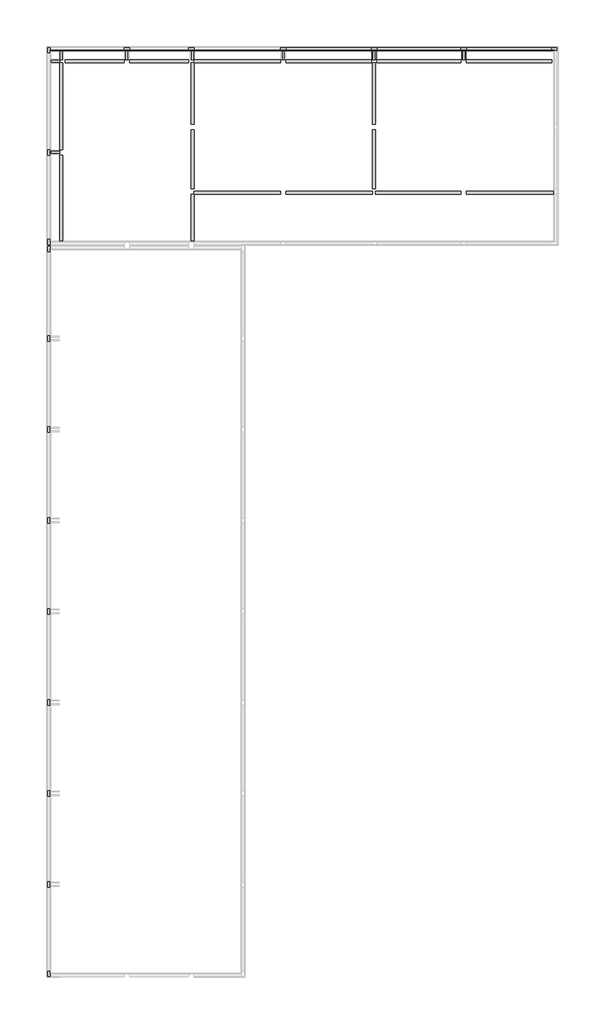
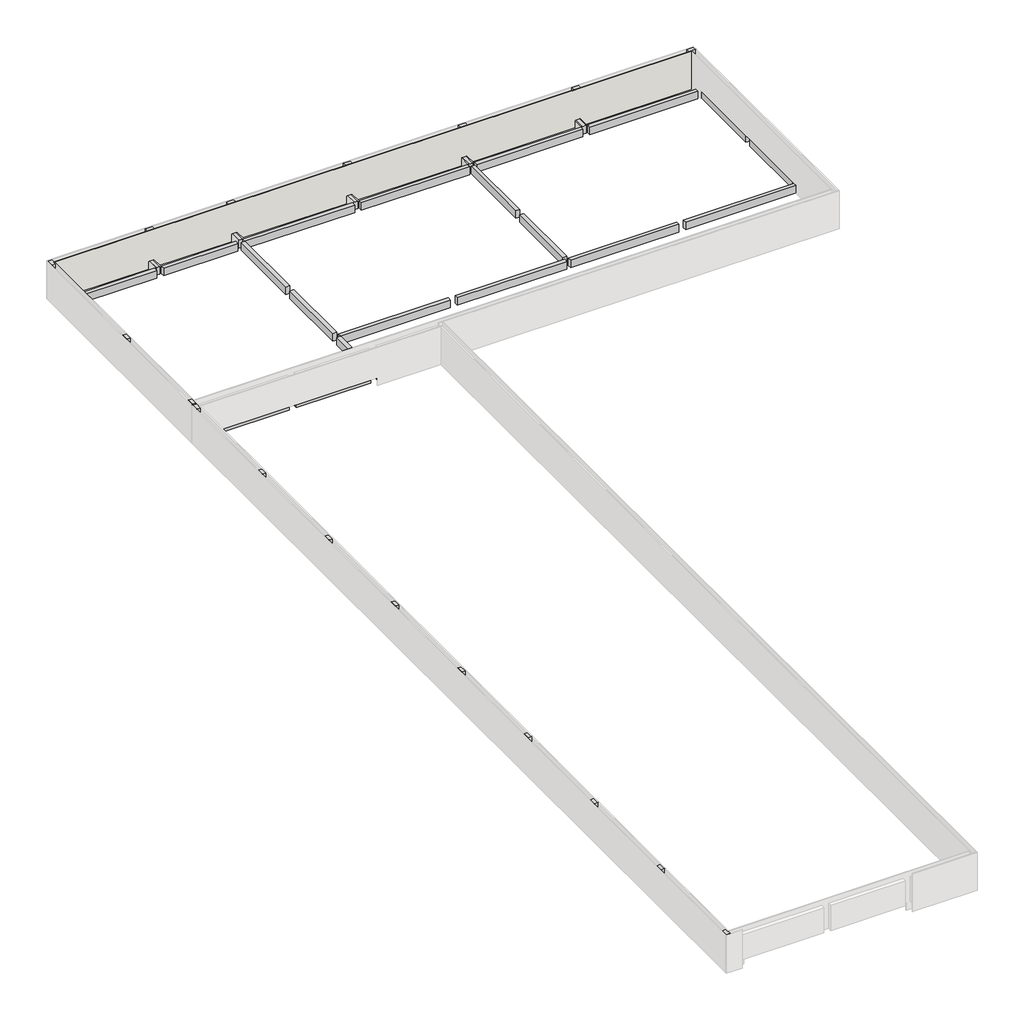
# One storey, part 2 of 2: 39 beams, 18 columns, 8 walls.
"""IFC4 building model written with IfcOpenShell, lengths in millimetres."""

from ifc_helpers import new_model, si_unit, frame, origin, place, context, project, spatial, polyline, outline, extrude, faceted_brep, element, save

model = new_model("IFC4")

# Units and contexts
model_context = context("Model", 3, world=origin())
ifc_project = project(units=[si_unit("LENGTHUNIT", "METRE", prefix="MILLI")], contexts=[model_context])

# Site, building, storey
site = spatial("IfcSite", under=ifc_project)
building = spatial("IfcBuilding", under=site)
storey = spatial("IfcBuildingStorey", under=building, Name="NÍVEL 2", Elevation=3143.4413576)

# Beams
placement = place(None, origin())
element("IfcBeam", 1, ObjectType="Viga Retangular de Concreto : VIGA ESTRUTURAL 14X30-25MPA-CA50", at=placement, inside=storey, context=model_context, shape_type="Brep", body=[
    faceted_brep([(2332.3574069, -26597.9280358, 3143.4413576), (2472.3574069, -26597.9280358, 3143.4413576), (2472.3574069, -26457.9280358, 3143.4413576), (2472.3574069, -26337.9280358, 3143.4413576), (2472.3574069, -22357.9280358, 3143.4413576), (2472.3574069, -22297.9280358, 3143.4413576), (2472.3574069, -22157.9280358, 3143.4413576), (2472.3574069, -22097.9280358, 3143.4413576), (2472.3574069, -18057.9280358, 3143.4413576), (2472.3574069, -17997.9280358, 3143.4413576), (2472.3574069, -17857.9280358, 3143.4413576), (2472.3574069, -17797.9280358, 3143.4413576), (2472.3574069, -13757.9280358, 3143.4413576), (2472.3574069, -13697.9280358, 3143.4413576), (2472.3574069, -13557.9280358, 3143.4413576), (2472.3574069, -13497.9280358, 3143.4413576), (2472.3574069, -9457.9280358, 3143.4413576), (2472.3574069, -9397.9280358, 3143.4413576), (2472.3574069, -9257.9280358, 3143.4413576), (2472.3574069, -9197.9280358, 3143.4413576), (2472.3574069, -5157.9280358, 3143.4413576), (2472.3574069, -5097.9280358, 3143.4413576), (2472.3574069, -4957.9280358, 3143.4413576), (2472.3574069, -4897.9280358, 3143.4413576), (2472.3574069, -857.9280358, 3143.4413576), (2472.3574069, -797.9280358, 3143.4413576), (2472.3574069, -657.9280358, 3143.4413576), (2472.3574069, -597.9280358, 3143.4413576), (2472.3574069, 3442.0719642, 3143.4413576), (2472.3574069, 3502.0719642, 3143.4413576), (2472.3574069, 3642.0719642, 3143.4413576), (2472.3574069, 3702.0719642, 3143.4413576), (2472.3574069, 7682.0719642, 3143.4413576), (2472.3574069, 7802.0719642, 3143.4413576), (2472.3574069, 7942.0719642, 3143.4413576), (2332.3574069, 7942.0719642, 3143.4413576), (2332.3574069, 7682.0719642, 3143.4413576), (2332.3574069, 3702.0719642, 3143.4413576), (2332.3574069, 3442.0719642, 3143.4413576), (2332.3574069, -597.9280358, 3143.4413576), (2332.3574069, -857.9280358, 3143.4413576), (2332.3574069, -4897.9280358, 3143.4413576), (2332.3574069, -5157.9280358, 3143.4413576), (2332.3574069, -9197.9280358, 3143.4413576), (2332.3574069, -9457.9280358, 3143.4413576), (2332.3574069, -13497.9280358, 3143.4413576), (2332.3574069, -13757.9280358, 3143.4413576), (2332.3574069, -17797.9280358, 3143.4413576), (2332.3574069, -18057.9280358, 3143.4413576), (2332.3574069, -22097.9280358, 3143.4413576), (2332.3574069, -22357.9280358, 3143.4413576), (2332.3574069, -26337.9280358, 3143.4413576), (2472.3574069, -26597.9280358, 2843.4413576), (2472.3574069, -26457.9280358, 2843.4413576), (2472.3574069, -22297.9280358, 2843.4413576), (2472.3574069, -22157.9280358, 2843.4413576), (2472.3574069, -17997.9280358, 2843.4413576), (2472.3574069, -17857.9280358, 2843.4413576), (2472.3574069, -13697.9280358, 2843.4413576), (2472.3574069, -13557.9280358, 2843.4413576), (2472.3574069, -9397.9280358, 2843.4413576), (2472.3574069, -9257.9280358, 2843.4413576), (2472.3574069, -5097.9280358, 2843.4413576), (2472.3574069, -4957.9280358, 2843.4413576), (2472.3574069, -797.9280358, 2843.4413576), (2472.3574069, -657.9280358, 2843.4413576), (2472.3574069, 3502.0719642, 2843.4413576), (2472.3574069, 3642.0719642, 2843.4413576), (2472.3574069, 7802.0719642, 2843.4413576), (2472.3574069, 7942.0719642, 2843.4413576), (2332.3574069, -26597.9280358, 2843.4413576), (2332.3574069, 7942.0719642, 2843.4413576)], [[[0, 1, 2, 3, 4, 5, 6, 7, 8, 9, 10, 11, 12, 13, 14, 15, 16, 17, 18, 19, 20, 21, 22, 23, 24, 25, 26, 27, 28, 29, 30, 31, 32, 33, 34, 35, 36, 37, 38, 39, 40, 41, 42, 43, 44, 45, 46, 47, 48, 49, 50, 51]], [[1, 52, 53, 54, 55, 56, 57, 58, 59, 60, 61, 62, 63, 64, 65, 66, 67, 68, 69, 34, 33, 32, 31, 30, 29, 28, 27, 26, 25, 24, 23, 22, 21, 20, 19, 18, 17, 16, 15, 14, 13, 12, 11, 10, 9, 8, 7, 6, 5, 4, 3, 2]], [[52, 70, 71, 69, 68, 67, 66, 65, 64, 63, 62, 61, 60, 59, 58, 57, 56, 55, 54, 53]], [[70, 0, 51, 50, 49, 48, 47, 46, 45, 44, 43, 42, 41, 40, 39, 38, 37, 36, 35, 71]], [[1, 0, 70, 52]], [[35, 34, 69, 71]]]),
])
element("IfcBeam", 2, ObjectType="Viga Retangular de Concreto : VIGA ESTRUTURAL 14X30-25MPA-CA50", at=placement, inside=storey, context=model_context, shape_type="SweptSolid", body=[
    extrude(outline(polyline([(5972.3574069, 8142.0719642), (5972.3574069, 8002.0719642), (3192.3574069, 8002.0719642), (3192.3574069, 8142.0719642), (5972.3574069, 8142.0719642)])), frame((0.0, 0.0, 2843.4413576), z_axis=(0.0, 0.0, 1.0), x_axis=(1.0, 0.0, 0.0)), (0.0, 0.0, 1.0), 300.0),
])
element("IfcBeam", 3, ObjectType="Viga Retangular de Concreto : VIGA ESTRUTURAL 14X30-25MPA-CA50", at=placement, inside=storey, context=model_context, shape_type="SweptSolid", body=[
    extrude(outline(polyline([(9012.3574069, 8142.0719642), (9012.3574069, 8002.0719642), (6232.3574069, 8002.0719642), (6232.3574069, 8142.0719642), (9012.3574069, 8142.0719642)])), frame((0.0, 0.0, 2843.4413576), z_axis=(0.0, 0.0, 1.0), x_axis=(1.0, 0.0, 0.0)), (0.0, 0.0, 1.0), 300.0),
])
element("IfcBeam", 4, ObjectType="Viga Retangular de Concreto : VIGA ESTRUTURAL 14X30-25MPA-CA50", at=placement, inside=storey, context=model_context, shape_type="SweptSolid", body=[
    extrude(outline(polyline([(9272.3574069, 8142.0719642), (9132.3574069, 8142.0719642), (9132.3574069, 10402.0719642), (9272.3574069, 10402.0719642), (9272.3574069, 8142.0719642)])), frame((0.0, 0.0, 2843.4413576), z_axis=(0.0, 0.0, 1.0), x_axis=(1.0, 0.0, 0.0)), (0.0, 0.0, 1.0), 300.0),
])
element("IfcBeam", 5, ObjectType="Viga Retangular de Concreto : VIGA ESTRUTURAL 14X30-25MPA-CA50", at=placement, inside=storey, context=model_context, shape_type="SweptSolid", body=[
    extrude(outline(polyline([(9132.3574069, 13442.0719642), (9272.3574069, 13442.0719642), (9272.3574069, 10662.0719642), (9132.3574069, 10662.0719642), (9132.3574069, 13442.0719642)])), frame((0.0, 0.0, 2843.4413576), z_axis=(0.0, 0.0, 1.0), x_axis=(1.0, 0.0, 0.0)), (0.0, 0.0, 1.0), 300.0),
])
element("IfcBeam", 6, ObjectType="Viga Retangular de Concreto : VIGA ESTRUTURAL 14X30-25MPA-CA50", at=placement, inside=storey, context=model_context, shape_type="SweptSolid", body=[
    extrude(outline(polyline([(9132.3574069, 16602.0719642), (9272.3574069, 16602.0719642), (9272.3574069, 13702.0719642), (9132.3574069, 13702.0719642), (9132.3574069, 16602.0719642)])), frame((0.0, 0.0, 2843.4413576), z_axis=(0.0, 0.0, 1.0), x_axis=(1.0, 0.0, 0.0)), (0.0, 0.0, 1.0), 300.0),
])
element("IfcBeam", 7, ObjectType="Viga Retangular de Concreto : VIGA ESTRUTURAL 14X30-25MPA-CA50", at=placement, inside=storey, context=model_context, shape_type="SweptSolid", body=[
    extrude(outline(polyline([(3072.3574069, 8142.0719642), (2932.3574069, 8142.0719642), (2932.3574069, 12242.0719642), (3072.3574069, 12242.0719642), (3072.3574069, 8142.0719642)])), frame((0.0, 0.0, 2843.4413576), z_axis=(0.0, 0.0, 1.0), x_axis=(1.0, 0.0, 0.0)), (0.0, 0.0, 1.0), 300.0),
])
element("IfcBeam", 8, ObjectType="Viga Retangular de Concreto : VIGA ESTRUTURAL 14X30-25MPA-CA50", at=placement, inside=storey, context=model_context, shape_type="SweptSolid", body=[
    extrude(outline(polyline([(2932.3574069, 16602.0719642), (3072.3574069, 16602.0719642), (3072.3574069, 12502.0719642), (2932.3574069, 12502.0719642), (2932.3574069, 16602.0719642)])), frame((0.0, 0.0, 2843.4413576), z_axis=(0.0, 0.0, 1.0), x_axis=(1.0, 0.0, 0.0)), (0.0, 0.0, 1.0), 300.0),
])
element("IfcBeam", 9, ObjectType="Viga Retangular de Concreto : VIGA ESTRUTURAL 14X30-25MPA-CA50", at=placement, inside=storey, context=model_context, shape_type="SweptSolid", body=[
    extrude(outline(polyline([(5972.3574069, 16742.0719642), (5972.3574069, 16602.0719642), (3192.3574069, 16602.0719642), (3192.3574069, 16742.0719642), (5972.3574069, 16742.0719642)])), frame((0.0, 0.0, 2843.4413576), z_axis=(0.0, 0.0, 1.0), x_axis=(1.0, 0.0, 0.0)), (0.0, 0.0, 1.0), 300.0),
])
element("IfcBeam", 10, ObjectType="Viga Retangular de Concreto : VIGA ESTRUTURAL 14X30-25MPA-CA50", at=placement, inside=storey, context=model_context, shape_type="SweptSolid", body=[
    extrude(outline(polyline([(9012.3574069, 16742.0719642), (9012.3574069, 16602.0719642), (6232.3574069, 16602.0719642), (6232.3574069, 16742.0719642), (9012.3574069, 16742.0719642)])), frame((0.0, 0.0, 2843.4413576), z_axis=(0.0, 0.0, 1.0), x_axis=(1.0, 0.0, 0.0)), (0.0, 0.0, 1.0), 300.0),
])
element("IfcBeam", 11, ObjectType="Viga Retangular de Concreto : VIGA ESTRUTURAL 14X30-25MPA-CA50", at=placement, inside=storey, context=model_context, shape_type="SweptSolid", body=[
    extrude(outline(polyline([(13372.3574069, 16742.0719642), (13372.3574069, 16602.0719642), (9272.3574069, 16602.0719642), (9272.3574069, 16742.0719642), (13372.3574069, 16742.0719642)])), frame((0.0, 0.0, 2843.4413576), z_axis=(0.0, 0.0, 1.0), x_axis=(1.0, 0.0, 0.0)), (0.0, 0.0, 1.0), 300.0),
])
element("IfcBeam", 12, ObjectType="Viga Retangular de Concreto : VIGA ESTRUTURAL 14X30-25MPA-CA50", at=placement, inside=storey, context=model_context, shape_type="SweptSolid", body=[
    extrude(outline(polyline([(17672.3574069, 16742.0719642), (17672.3574069, 16602.0719642), (13632.3574069, 16602.0719642), (13632.3574069, 16742.0719642), (17672.3574069, 16742.0719642)])), frame((0.0, 0.0, 2843.4413576), z_axis=(0.0, 0.0, 1.0), x_axis=(1.0, 0.0, 0.0)), (0.0, 0.0, 1.0), 300.0),
])
element("IfcBeam", 13, ObjectType="Viga Retangular de Concreto : VIGA ESTRUTURAL 14X30-25MPA-CA50", at=placement, inside=storey, context=model_context, shape_type="SweptSolid", body=[
    extrude(outline(polyline([(21912.3574069, 16742.0719642), (21912.3574069, 16602.0719642), (17932.3574069, 16602.0719642), (17932.3574069, 16742.0719642), (21912.3574069, 16742.0719642)])), frame((0.0, 0.0, 2843.4413576), z_axis=(0.0, 0.0, 1.0), x_axis=(1.0, 0.0, 0.0)), (0.0, 0.0, 1.0), 300.0),
])
element("IfcBeam", 14, ObjectType="Viga Retangular de Concreto : VIGA ESTRUTURAL 14X30-25MPA-CA50", at=placement, inside=storey, context=model_context, shape_type="SweptSolid", body=[
    extrude(outline(polyline([(26212.3574069, 16742.0719642), (26212.3574069, 16602.0719642), (22172.3574069, 16602.0719642), (22172.3574069, 16742.0719642), (26212.3574069, 16742.0719642)])), frame((0.0, 0.0, 2843.4413576), z_axis=(0.0, 0.0, 1.0), x_axis=(1.0, 0.0, 0.0)), (0.0, 0.0, 1.0), 300.0),
])
element("IfcBeam", 15, ObjectType="Viga Retangular de Concreto : VIGA ESTRUTURAL 14X30-25MPA-CA50", at=placement, inside=storey, context=model_context, shape_type="SweptSolid", body=[
    extrude(outline(polyline([(13372.3574069, 8142.0719642), (13372.3574069, 8002.0719642), (9272.3574069, 8002.0719642), (9272.3574069, 8142.0719642), (13372.3574069, 8142.0719642)])), frame((0.0, 0.0, 2843.4413576), z_axis=(0.0, 0.0, 1.0), x_axis=(1.0, 0.0, 0.0)), (0.0, 0.0, 1.0), 300.0),
])
element("IfcBeam", 16, ObjectType="Viga Retangular de Concreto : VIGA ESTRUTURAL 14X30-25MPA-CA50", at=placement, inside=storey, context=model_context, shape_type="Brep", body=[
    faceted_brep([(2332.3574069, 8002.0719642, 3143.4413576), (2472.3574069, 8002.0719642, 3143.4413576), (2472.3574069, 8142.0719642, 3143.4413576), (2472.3574069, 8262.0719642, 3143.4413576), (2472.3574069, 12242.0719642, 3143.4413576), (2472.3574069, 12302.0719642, 3143.4413576), (2472.3574069, 12442.0719642, 3143.4413576), (2472.3574069, 12502.0719642, 3143.4413576), (2472.3574069, 16602.0719642, 3143.4413576), (2472.3574069, 16742.0719642, 3143.4413576), (2472.3574069, 17082.0719642, 3143.4413576), (2472.3574069, 17202.0719642, 3143.4413576), (2472.3574069, 17342.0719642, 3143.4413576), (2332.3574069, 17342.0719642, 3143.4413576), (2332.3574069, 17082.0719642, 3143.4413576), (2332.3574069, 12502.0719642, 3143.4413576), (2332.3574069, 12242.0719642, 3143.4413576), (2332.3574069, 8262.0719642, 3143.4413576), (2332.3574069, 8002.0719642, 2843.4413576), (2332.3574069, 17342.0719642, 2843.4413576), (2472.3574069, 8002.0719642, 2843.4413576), (2472.3574069, 17342.0719642, 2843.4413576), (2472.3574069, 17202.0719642, 2843.4413576), (2472.3574069, 16742.0719642, 2843.4413576), (2472.3574069, 16602.0719642, 2843.4413576), (2472.3574069, 12442.0719642, 2843.4413576), (2472.3574069, 12302.0719642, 2843.4413576), (2472.3574069, 8142.0719642, 2843.4413576)], [[[0, 1, 2, 3, 4, 5, 6, 7, 8, 9, 10, 11, 12, 13, 14, 15, 16, 17]], [[18, 0, 17, 16, 15, 14, 13, 19]], [[20, 18, 19, 21, 22, 23, 24, 25, 26, 27]], [[1, 20, 27, 26, 25, 24, 23, 22, 21, 12, 11, 10, 9, 8, 7, 6, 5, 4, 3, 2]], [[1, 0, 18, 20]], [[13, 12, 21, 19]]]),
])
element("IfcBeam", 17, ObjectType="Viga Retangular de Concreto : VIGA ESTRUTURAL 14X30-25MPA-CA50", at=placement, inside=storey, context=model_context, shape_type="SweptSolid", body=[
    extrude(outline(polyline([(2932.3574069, 8142.0719642), (2932.3574069, 8002.0719642), (2472.3574069, 8002.0719642), (2472.3574069, 8142.0719642), (2932.3574069, 8142.0719642)])), frame((0.0, 0.0, 2843.4413576), z_axis=(0.0, 0.0, 1.0), x_axis=(1.0, 0.0, 0.0)), (0.0, 0.0, 1.0), 300.0),
])
element("IfcBeam", 18, ObjectType="Viga Retangular de Concreto : VIGA ESTRUTURAL 14X30-25MPA-CA50", at=placement, inside=storey, context=model_context, shape_type="SweptSolid", body=[
    extrude(outline(polyline([(2932.3574069, 12442.0719642), (2932.3574069, 12302.0719642), (2472.3574069, 12302.0719642), (2472.3574069, 12442.0719642), (2932.3574069, 12442.0719642)])), frame((0.0, 0.0, 2843.4413576), z_axis=(0.0, 0.0, 1.0), x_axis=(1.0, 0.0, 0.0)), (0.0, 0.0, 1.0), 300.0),
])
element("IfcBeam", 19, ObjectType="Viga Retangular de Concreto : VIGA ESTRUTURAL 14X30-25MPA-CA50", at=placement, inside=storey, context=model_context, shape_type="SweptSolid", body=[
    extrude(outline(polyline([(2932.3574069, 16742.0719642), (2932.3574069, 16602.0719642), (2472.3574069, 16602.0719642), (2472.3574069, 16742.0719642), (2932.3574069, 16742.0719642)])), frame((0.0, 0.0, 2843.4413576), z_axis=(0.0, 0.0, 1.0), x_axis=(1.0, 0.0, 0.0)), (0.0, 0.0, 1.0), 300.0),
])
element("IfcBeam", 20, ObjectType="Viga Retangular de Concreto : VIGA ESTRUTURAL 14X30-25MPA-CA50", at=placement, inside=storey, context=model_context, shape_type="Brep", body=[
    faceted_brep([(26212.3574069, 17202.0719642, 3143.4413576), (26212.3574069, 17202.0719642, 2843.4413576), (26212.3574069, 17342.0719642, 2843.4413576), (26212.3574069, 17342.0719642, 3143.4413576), (22172.3574069, 17342.0719642, 3143.4413576), (21912.3574069, 17342.0719642, 3143.4413576), (17932.3574069, 17342.0719642, 3143.4413576), (17672.3574069, 17342.0719642, 3143.4413576), (13632.3574069, 17342.0719642, 3143.4413576), (13372.3574069, 17342.0719642, 3143.4413576), (9272.3574069, 17342.0719642, 3143.4413576), (9012.3574069, 17342.0719642, 3143.4413576), (6232.3574069, 17342.0719642, 3143.4413576), (5972.3574069, 17342.0719642, 3143.4413576), (2472.3574069, 17342.0719642, 3143.4413576), (2472.3574069, 17202.0719642, 3143.4413576), (2932.3574069, 17202.0719642, 3143.4413576), (3072.3574069, 17202.0719642, 3143.4413576), (5972.3574069, 17202.0719642, 3143.4413576), (6032.3574069, 17202.0719642, 3143.4413576), (6172.3574069, 17202.0719642, 3143.4413576), (6232.3574069, 17202.0719642, 3143.4413576), (9012.3574069, 17202.0719642, 3143.4413576), (9132.3574069, 17202.0719642, 3143.4413576), (9272.3574069, 17202.0719642, 3143.4413576), (13372.3574069, 17202.0719642, 3143.4413576), (13432.3574069, 17202.0719642, 3143.4413576), (13572.3574069, 17202.0719642, 3143.4413576), (13632.3574069, 17202.0719642, 3143.4413576), (17672.3574069, 17202.0719642, 3143.4413576), (17732.3574069, 17202.0719642, 3143.4413576), (17872.3574069, 17202.0719642, 3143.4413576), (17932.3574069, 17202.0719642, 3143.4413576), (21912.3574069, 17202.0719642, 3143.4413576), (21972.3574069, 17202.0719642, 3143.4413576), (22112.3574069, 17202.0719642, 3143.4413576), (22172.3574069, 17202.0719642, 3143.4413576), (2472.3574069, 17342.0719642, 2843.4413576), (22112.3574069, 17202.0719642, 2843.4413576), (21972.3574069, 17202.0719642, 2843.4413576), (17872.3574069, 17202.0719642, 2843.4413576), (17732.3574069, 17202.0719642, 2843.4413576), (13572.3574069, 17202.0719642, 2843.4413576), (13432.3574069, 17202.0719642, 2843.4413576), (9272.3574069, 17202.0719642, 2843.4413576), (9132.3574069, 17202.0719642, 2843.4413576), (6172.3574069, 17202.0719642, 2843.4413576), (6032.3574069, 17202.0719642, 2843.4413576), (3072.3574069, 17202.0719642, 2843.4413576), (2932.3574069, 17202.0719642, 2843.4413576), (2472.3574069, 17202.0719642, 2843.4413576)], [[[0, 1, 2, 3]], [[0, 3, 4, 5, 6, 7, 8, 9, 10, 11, 12, 13, 14, 15, 16, 17, 18, 19, 20, 21, 22, 23, 24, 25, 26, 27, 28, 29, 30, 31, 32, 33, 34, 35, 36]], [[3, 2, 37, 14, 13, 12, 11, 10, 9, 8, 7, 6, 5, 4]], [[2, 1, 38, 39, 40, 41, 42, 43, 44, 45, 46, 47, 48, 49, 50, 37]], [[1, 0, 36, 35, 34, 33, 32, 31, 30, 29, 28, 27, 26, 25, 24, 23, 22, 21, 20, 19, 18, 17, 16, 15, 50, 49, 48, 47, 46, 45, 44, 43, 42, 41, 40, 39, 38]], [[15, 14, 37, 50]]]),
])
element("IfcBeam", 21, ObjectType="Viga Retangular de Concreto : VIGA ESTRUTURAL 14X30-25MPA-CA50", at=placement, inside=storey, context=model_context, shape_type="SweptSolid", body=[
    extrude(outline(polyline([(3072.3574069, 16742.0719642), (2932.3574069, 16742.0719642), (2932.3574069, 17202.0719642), (3072.3574069, 17202.0719642), (3072.3574069, 16742.0719642)])), frame((0.0, 0.0, 2843.4413576), z_axis=(0.0, 0.0, 1.0), x_axis=(1.0, 0.0, 0.0)), (0.0, 0.0, 1.0), 300.0),
])
element("IfcBeam", 22, ObjectType="Viga Retangular de Concreto : VIGA ESTRUTURAL 14X30-25MPA-CA50", at=placement, inside=storey, context=model_context, shape_type="SweptSolid", body=[
    extrude(outline(polyline([(6172.3574069, 16742.0719642), (6032.3574069, 16742.0719642), (6032.3574069, 17202.0719642), (6172.3574069, 17202.0719642), (6172.3574069, 16742.0719642)])), frame((0.0, 0.0, 2843.4413576), z_axis=(0.0, 0.0, 1.0), x_axis=(1.0, 0.0, 0.0)), (0.0, 0.0, 1.0), 300.0),
])
element("IfcBeam", 23, ObjectType="Viga Retangular de Concreto : VIGA ESTRUTURAL 14X30-25MPA-CA50", at=placement, inside=storey, context=model_context, shape_type="SweptSolid", body=[
    extrude(outline(polyline([(9272.3574069, 16742.0719642), (9132.3574069, 16742.0719642), (9132.3574069, 17202.0719642), (9272.3574069, 17202.0719642), (9272.3574069, 16742.0719642)])), frame((0.0, 0.0, 2843.4413576), z_axis=(0.0, 0.0, 1.0), x_axis=(1.0, 0.0, 0.0)), (0.0, 0.0, 1.0), 300.0),
])
element("IfcBeam", 24, ObjectType="Viga Retangular de Concreto : VIGA ESTRUTURAL 14X30-25MPA-CA50", at=placement, inside=storey, context=model_context, shape_type="SweptSolid", body=[
    extrude(outline(polyline([(13572.3574069, 16742.0719642), (13432.3574069, 16742.0719642), (13432.3574069, 17202.0719642), (13572.3574069, 17202.0719642), (13572.3574069, 16742.0719642)])), frame((0.0, 0.0, 2843.4413576), z_axis=(0.0, 0.0, 1.0), x_axis=(1.0, 0.0, 0.0)), (0.0, 0.0, 1.0), 300.0),
])
element("IfcBeam", 25, ObjectType="Viga Retangular de Concreto : VIGA ESTRUTURAL 14X30-25MPA-CA50", at=placement, inside=storey, context=model_context, shape_type="SweptSolid", body=[
    extrude(outline(polyline([(17872.3574069, 16742.0719642), (17732.3574069, 16742.0719642), (17732.3574069, 17202.0719642), (17872.3574069, 17202.0719642), (17872.3574069, 16742.0719642)])), frame((0.0, 0.0, 2843.4413576), z_axis=(0.0, 0.0, 1.0), x_axis=(1.0, 0.0, 0.0)), (0.0, 0.0, 1.0), 300.0),
])
element("IfcBeam", 26, ObjectType="Viga Retangular de Concreto : VIGA ESTRUTURAL 14X30-25MPA-CA50", at=placement, inside=storey, context=model_context, shape_type="SweptSolid", body=[
    extrude(outline(polyline([(22112.3574069, 16742.0719642), (21972.3574069, 16742.0719642), (21972.3574069, 17202.0719642), (22112.3574069, 17202.0719642), (22112.3574069, 16742.0719642)])), frame((0.0, 0.0, 2843.4413576), z_axis=(0.0, 0.0, 1.0), x_axis=(1.0, 0.0, 0.0)), (0.0, 0.0, 1.0), 300.0),
])
element("IfcBeam", 27, ObjectType="Viga Retangular de Concreto : VIGA ESTRUTURAL 14X30-25MPA-CA50", at=placement, inside=storey, context=model_context, shape_type="Brep", body=[
    faceted_brep([(26332.3574069, 17272.0719642, 3143.4413576), (26472.3574069, 17272.0719642, 3143.4413576), (26472.3574069, 17272.0719642, 2843.4413576), (26332.3574069, 17272.0719642, 2843.4413576), (26332.3574069, 16742.0719642, 3143.4413576), (26472.3574069, 16742.0719642, 3143.4413576), (26472.3574069, 17202.0719642, 3143.4413576), (26472.3574069, 16742.0719642, 2843.4413576), (26332.3574069, 16742.0719642, 2843.4413576)], [[[0, 1, 2, 3]], [[1, 0, 4, 5, 6]], [[2, 1, 6, 5, 7]], [[3, 2, 7, 8]], [[0, 3, 8, 4]], [[4, 8, 7, 5]]]),
])
element("IfcBeam", 28, ObjectType="Viga Retangular de Concreto : VIGA ESTRUTURAL 14X30-25MPA-CA50", at=placement, inside=storey, context=model_context, shape_type="SweptSolid", body=[
    extrude(outline(polyline([(17672.3574069, 8142.0719642), (17672.3574069, 8002.0719642), (13632.3574069, 8002.0719642), (13632.3574069, 8142.0719642), (17672.3574069, 8142.0719642)])), frame((0.0, 0.0, 2843.4413576), z_axis=(0.0, 0.0, 1.0), x_axis=(1.0, 0.0, 0.0)), (0.0, 0.0, 1.0), 300.0),
])
element("IfcBeam", 29, ObjectType="Viga Retangular de Concreto : VIGA ESTRUTURAL 14X30-25MPA-CA50", at=placement, inside=storey, context=model_context, shape_type="SweptSolid", body=[
    extrude(outline(polyline([(9272.3574069, 10402.0719642), (9272.3574069, 10542.0719642), (13372.3574069, 10542.0719642), (13372.3574069, 10402.0719642), (9272.3574069, 10402.0719642)])), frame((0.0, 0.0, 2843.4413576), z_axis=(0.0, 0.0, 1.0), x_axis=(1.0, 0.0, 0.0)), (0.0, 0.0, 1.0), 300.0),
])
element("IfcBeam", 30, ObjectType="Viga Retangular de Concreto : VIGA ESTRUTURAL 14X30-25MPA-CA50", at=placement, inside=storey, context=model_context, shape_type="SweptSolid", body=[
    extrude(outline(polyline([(17732.3574069, 10542.0719642), (17732.3574069, 10402.0719642), (13632.3574069, 10402.0719642), (13632.3574069, 10542.0719642), (17732.3574069, 10542.0719642)])), frame((0.0, 0.0, 2843.4413576), z_axis=(0.0, 0.0, 1.0), x_axis=(1.0, 0.0, 0.0)), (0.0, 0.0, 1.0), 300.0),
])
element("IfcBeam", 31, ObjectType="Viga Retangular de Concreto : VIGA ESTRUTURAL 14X30-25MPA-CA50", at=placement, inside=storey, context=model_context, shape_type="SweptSolid", body=[
    extrude(outline(polyline([(21912.3574069, 10542.0719642), (21912.3574069, 10402.0719642), (17872.3574069, 10402.0719642), (17872.3574069, 10542.0719642), (21912.3574069, 10542.0719642)])), frame((0.0, 0.0, 2843.4413576), z_axis=(0.0, 0.0, 1.0), x_axis=(1.0, 0.0, 0.0)), (0.0, 0.0, 1.0), 300.0),
])
element("IfcBeam", 32, ObjectType="Viga Retangular de Concreto : VIGA ESTRUTURAL 14X30-25MPA-CA50", at=placement, inside=storey, context=model_context, shape_type="SweptSolid", body=[
    extrude(outline(polyline([(26332.3574069, 10542.0719642), (26332.3574069, 10402.0719642), (22172.3574069, 10402.0719642), (22172.3574069, 10542.0719642), (26332.3574069, 10542.0719642)])), frame((0.0, 0.0, 2843.4413576), z_axis=(0.0, 0.0, 1.0), x_axis=(1.0, 0.0, 0.0)), (0.0, 0.0, 1.0), 300.0),
])
element("IfcBeam", 33, ObjectType="Viga Retangular de Concreto : VIGA ESTRUTURAL 14X30-25MPA-CA50", at=placement, inside=storey, context=model_context, shape_type="SweptSolid", body=[
    extrude(outline(polyline([(26332.3574069, 16602.0719642), (26472.3574069, 16602.0719642), (26472.3574069, 13702.0719642), (26332.3574069, 13702.0719642), (26332.3574069, 16602.0719642)])), frame((0.0, 0.0, 2843.4413576), z_axis=(0.0, 0.0, 1.0), x_axis=(1.0, 0.0, 0.0)), (0.0, 0.0, 1.0), 300.0),
])
element("IfcBeam", 34, ObjectType="Viga Retangular de Concreto : VIGA ESTRUTURAL 14X30-25MPA-CA50", at=placement, inside=storey, context=model_context, shape_type="SweptSolid", body=[
    extrude(outline(polyline([(26472.3574069, 10662.0719642), (26332.3574069, 10662.0719642), (26332.3574069, 13442.0719642), (26472.3574069, 13442.0719642), (26472.3574069, 10662.0719642)])), frame((0.0, 0.0, 2843.4413576), z_axis=(0.0, 0.0, 1.0), x_axis=(1.0, 0.0, 0.0)), (0.0, 0.0, 1.0), 300.0),
])
element("IfcBeam", 35, ObjectType="Viga Retangular de Concreto : VIGA ESTRUTURAL 14X30-25MPA-CA50", at=placement, inside=storey, context=model_context, shape_type="SweptSolid", body=[
    extrude(outline(polyline([(17732.3574069, 13442.0719642), (17872.3574069, 13442.0719642), (17872.3574069, 10662.0719642), (17732.3574069, 10662.0719642), (17732.3574069, 13442.0719642)])), frame((0.0, 0.0, 2843.4413576), z_axis=(0.0, 0.0, 1.0), x_axis=(1.0, 0.0, 0.0)), (0.0, 0.0, 1.0), 300.0),
])
element("IfcBeam", 36, ObjectType="Viga Retangular de Concreto : VIGA ESTRUTURAL 14X30-25MPA-CA50", at=placement, inside=storey, context=model_context, shape_type="SweptSolid", body=[
    extrude(outline(polyline([(17872.3574069, 13702.0719642), (17732.3574069, 13702.0719642), (17732.3574069, 16602.0719642), (17872.3574069, 16602.0719642), (17872.3574069, 13702.0719642)])), frame((0.0, 0.0, 2843.4413576), z_axis=(0.0, 0.0, 1.0), x_axis=(1.0, 0.0, 0.0)), (0.0, 0.0, 1.0), 300.0),
])
element("IfcBeam", 37, ObjectType="Viga Retangular de Concreto : VIGA ESTRUTURAL 14X30-25MPA-CA50", at=placement, inside=storey, context=model_context, shape_type="SweptSolid", body=[
    extrude(outline(polyline([(26332.3574069, 10402.0719642), (26472.3574069, 10402.0719642), (26472.3574069, 8142.0719642), (26332.3574069, 8142.0719642), (26332.3574069, 10402.0719642)])), frame((0.0, 0.0, 2843.4413576), z_axis=(0.0, 0.0, 1.0), x_axis=(1.0, 0.0, 0.0)), (0.0, 0.0, 1.0), 300.0),
])
element("IfcBeam", 38, ObjectType="Viga Retangular de Concreto : VIGA ESTRUTURAL 14X30-25MPA-CA50", at=placement, inside=storey, context=model_context, shape_type="SweptSolid", body=[
    extrude(outline(polyline([(21912.3574069, 8142.0719642), (21912.3574069, 8002.0719642), (17932.3574069, 8002.0719642), (17932.3574069, 8142.0719642), (21912.3574069, 8142.0719642)])), frame((0.0, 0.0, 2843.4413576), z_axis=(0.0, 0.0, 1.0), x_axis=(1.0, 0.0, 0.0)), (0.0, 0.0, 1.0), 300.0),
])
element("IfcBeam", 39, ObjectType="Viga Retangular de Concreto : VIGA ESTRUTURAL 14X30-25MPA-CA50", at=placement, inside=storey, context=model_context, shape_type="SweptSolid", body=[
    extrude(outline(polyline([(26212.3574069, 8142.0719642), (26212.3574069, 8002.0719642), (22172.3574069, 8002.0719642), (22172.3574069, 8142.0719642), (26212.3574069, 8142.0719642)])), frame((0.0, 0.0, 2843.4413576), z_axis=(0.0, 0.0, 1.0), x_axis=(1.0, 0.0, 0.0)), (0.0, 0.0, 1.0), 300.0),
])

# Columns
element("IfcColumn", 40, ObjectType="Pilar Retangular de Concreto : PILAR ESTRUTURAL 14X26-25MPA-CA50", at=placement, inside=storey, context=model_context, shape_type="SweptSolid", body=[
    extrude(outline(polyline([(2332.3574069, 3702.0719642), (2472.3574069, 3702.0719642), (2472.3574069, 3442.0719642), (2332.3574069, 3442.0719642), (2332.3574069, 3702.0719642)])), frame((0.0, 0.0, 3143.4413576), z_axis=(0.0, 0.0, 1.0), x_axis=(1.0, 0.0, 0.0)), (0.0, 0.0, 1.0), 1200.0),
])
element("IfcColumn", 41, ObjectType="Pilar Retangular de Concreto : PILAR ESTRUTURAL 14X26-25MPA-CA50", at=placement, inside=storey, context=model_context, shape_type="SweptSolid", body=[
    extrude(outline(polyline([(2332.3574069, -4897.9280358), (2472.3574069, -4897.9280358), (2472.3574069, -5157.9280358), (2332.3574069, -5157.9280358), (2332.3574069, -4897.9280358)])), frame((0.0, 0.0, 3143.4413576), z_axis=(0.0, 0.0, 1.0), x_axis=(1.0, 0.0, 0.0)), (0.0, 0.0, 1.0), 1200.0),
])
element("IfcColumn", 42, ObjectType="Pilar Retangular de Concreto : PILAR ESTRUTURAL 14X26-25MPA-CA50", at=placement, inside=storey, context=model_context, shape_type="SweptSolid", body=[
    extrude(outline(polyline([(2332.3574069, -13497.9280358), (2472.3574069, -13497.9280358), (2472.3574069, -13757.9280358), (2332.3574069, -13757.9280358), (2332.3574069, -13497.9280358)])), frame((0.0, 0.0, 3143.4413576), z_axis=(0.0, 0.0, 1.0), x_axis=(1.0, 0.0, 0.0)), (0.0, 0.0, 1.0), 1200.0),
])
element("IfcColumn", 43, ObjectType="Pilar Retangular de Concreto : PILAR ESTRUTURAL 14X26-25MPA-CA50", at=placement, inside=storey, context=model_context, shape_type="SweptSolid", body=[
    extrude(outline(polyline([(2332.3574069, -22097.9280358), (2472.3574069, -22097.9280358), (2472.3574069, -22357.9280358), (2332.3574069, -22357.9280358), (2332.3574069, -22097.9280358)])), frame((0.0, 0.0, 3143.4413576), z_axis=(0.0, 0.0, 1.0), x_axis=(1.0, 0.0, 0.0)), (0.0, 0.0, 1.0), 1200.0),
])
element("IfcColumn", 44, ObjectType="Pilar Retangular de Concreto : PILAR ESTRUTURAL 14X26-25MPA-CA50", at=placement, inside=storey, context=model_context, shape_type="SweptSolid", body=[
    extrude(outline(polyline([(2332.3574069, -17797.9280358), (2472.3574069, -17797.9280358), (2472.3574069, -18057.9280358), (2332.3574069, -18057.9280358), (2332.3574069, -17797.9280358)])), frame((0.0, 0.0, 3143.4413576), z_axis=(0.0, 0.0, 1.0), x_axis=(1.0, 0.0, 0.0)), (0.0, 0.0, 1.0), 1200.0),
])
element("IfcColumn", 45, ObjectType="Pilar Retangular de Concreto : PILAR ESTRUTURAL 14X26-25MPA-CA50", at=placement, inside=storey, context=model_context, shape_type="SweptSolid", body=[
    extrude(outline(polyline([(2332.3574069, -9197.9280358), (2472.3574069, -9197.9280358), (2472.3574069, -9457.9280358), (2332.3574069, -9457.9280358), (2332.3574069, -9197.9280358)])), frame((0.0, 0.0, 3143.4413576), z_axis=(0.0, 0.0, 1.0), x_axis=(1.0, 0.0, 0.0)), (0.0, 0.0, 1.0), 1200.0),
])
element("IfcColumn", 46, ObjectType="Pilar Retangular de Concreto : PILAR ESTRUTURAL 14X26-25MPA-CA50", at=placement, inside=storey, context=model_context, shape_type="SweptSolid", body=[
    extrude(outline(polyline([(2332.3574069, -597.9280358), (2472.3574069, -597.9280358), (2472.3574069, -857.9280358), (2332.3574069, -857.9280358), (2332.3574069, -597.9280358)])), frame((0.0, 0.0, 3143.4413576), z_axis=(0.0, 0.0, 1.0), x_axis=(1.0, 0.0, 0.0)), (0.0, 0.0, 1.0), 1200.0),
])
element("IfcColumn", 47, ObjectType="Pilar Retangular de Concreto : PILAR ESTRUTURAL 14X26-25MPA-CA50", at=placement, inside=storey, context=model_context, shape_type="SweptSolid", body=[
    extrude(outline(polyline([(2332.3574069, 7942.0719642), (2472.3574069, 7942.0719642), (2472.3574069, 7682.0719642), (2332.3574069, 7682.0719642), (2332.3574069, 7942.0719642)])), frame((0.0, 0.0, 3143.4413576), z_axis=(0.0, 0.0, 1.0), x_axis=(1.0, 0.0, 0.0)), (0.0, 0.0, 1.0), 1200.0),
])
element("IfcColumn", 48, ObjectType="Pilar Retangular de Concreto : PILAR ESTRUTURAL 14X26-25MPA-CA50", at=placement, inside=storey, context=model_context, shape_type="SweptSolid", body=[
    extrude(outline(polyline([(2332.3574069, -26337.9280358), (2472.3574069, -26337.9280358), (2472.3574069, -26597.9280358), (2332.3574069, -26597.9280358), (2332.3574069, -26337.9280358)])), frame((0.0, 0.0, 3143.4413576), z_axis=(0.0, 0.0, 1.0), x_axis=(1.0, 0.0, 0.0)), (0.0, 0.0, 1.0), 1200.0),
])
element("IfcColumn", 49, ObjectType="Pilar Retangular de Concreto : PILAR ESTRUTURAL 14X26-25MPA-CA50", at=placement, inside=storey, context=model_context, shape_type="SweptSolid", body=[
    extrude(outline(polyline([(2332.3574069, 8002.0719642), (2332.3574069, 8262.0719642), (2472.3574069, 8262.0719642), (2472.3574069, 8002.0719642), (2332.3574069, 8002.0719642)])), frame((0.0, 0.0, 3143.4413576), z_axis=(0.0, 0.0, 1.0), x_axis=(1.0, 0.0, 0.0)), (0.0, 0.0, 1.0), 1200.0),
])
element("IfcColumn", 50, ObjectType="Pilar Retangular de Concreto : PILAR ESTRUTURAL 14X26-25MPA-CA50", at=placement, inside=storey, context=model_context, shape_type="SweptSolid", body=[
    extrude(outline(polyline([(2332.3574069, 17082.0719642), (2332.3574069, 17342.0719642), (2472.3574069, 17342.0719642), (2472.3574069, 17082.0719642), (2332.3574069, 17082.0719642)])), frame((0.0, 0.0, 3143.4413576), z_axis=(0.0, 0.0, 1.0), x_axis=(1.0, 0.0, 0.0)), (0.0, 0.0, 1.0), 1200.0),
])
element("IfcColumn", 51, ObjectType="Pilar Retangular de Concreto : PILAR ESTRUTURAL 14X26-25MPA-CA50", at=placement, inside=storey, context=model_context, shape_type="SweptSolid", body=[
    extrude(outline(polyline([(2332.3574069, 12242.0719642), (2332.3574069, 12502.0719642), (2472.3574069, 12502.0719642), (2472.3574069, 12242.0719642), (2332.3574069, 12242.0719642)])), frame((0.0, 0.0, 3143.4413576), z_axis=(0.0, 0.0, 1.0), x_axis=(1.0, 0.0, 0.0)), (0.0, 0.0, 1.0), 1200.0),
])
element("IfcColumn", 52, ObjectType="Pilar Retangular de Concreto : PILAR ESTRUTURAL 14X26-25MPA-CA50", at=placement, inside=storey, context=model_context, shape_type="SweptSolid", body=[
    extrude(outline(polyline([(6232.3574069, 17202.0719642), (5972.3574069, 17202.0719642), (5972.3574069, 17342.0719642), (6232.3574069, 17342.0719642), (6232.3574069, 17202.0719642)])), frame((0.0, 0.0, 3143.4413576), z_axis=(0.0, 0.0, 1.0), x_axis=(1.0, 0.0, 0.0)), (0.0, 0.0, 1.0), 1200.0),
])
element("IfcColumn", 53, ObjectType="Pilar Retangular de Concreto : PILAR ESTRUTURAL 14X26-25MPA-CA50", at=placement, inside=storey, context=model_context, shape_type="SweptSolid", body=[
    extrude(outline(polyline([(9272.3574069, 17202.0719642), (9012.3574069, 17202.0719642), (9012.3574069, 17342.0719642), (9272.3574069, 17342.0719642), (9272.3574069, 17202.0719642)])), frame((0.0, 0.0, 3143.4413576), z_axis=(0.0, 0.0, 1.0), x_axis=(1.0, 0.0, 0.0)), (0.0, 0.0, 1.0), 1200.0),
])
element("IfcColumn", 54, ObjectType="Pilar Retangular de Concreto : PILAR ESTRUTURAL 14X26-25MPA-CA50", at=placement, inside=storey, context=model_context, shape_type="SweptSolid", body=[
    extrude(outline(polyline([(13632.3574069, 17202.0719642), (13372.3574069, 17202.0719642), (13372.3574069, 17342.0719642), (13632.3574069, 17342.0719642), (13632.3574069, 17202.0719642)])), frame((0.0, 0.0, 3143.4413576), z_axis=(0.0, 0.0, 1.0), x_axis=(1.0, 0.0, 0.0)), (0.0, 0.0, 1.0), 1200.0),
])
element("IfcColumn", 55, ObjectType="Pilar Retangular de Concreto : PILAR ESTRUTURAL 14X26-25MPA-CA50", at=placement, inside=storey, context=model_context, shape_type="SweptSolid", body=[
    extrude(outline(polyline([(17932.3574069, 17202.0719642), (17672.3574069, 17202.0719642), (17672.3574069, 17342.0719642), (17932.3574069, 17342.0719642), (17932.3574069, 17202.0719642)])), frame((0.0, 0.0, 3143.4413576), z_axis=(0.0, 0.0, 1.0), x_axis=(1.0, 0.0, 0.0)), (0.0, 0.0, 1.0), 1200.0),
])
element("IfcColumn", 56, ObjectType="Pilar Retangular de Concreto : PILAR ESTRUTURAL 14X26-25MPA-CA50", at=placement, inside=storey, context=model_context, shape_type="SweptSolid", body=[
    extrude(outline(polyline([(22172.3574069, 17202.0719642), (21912.3574069, 17202.0719642), (21912.3574069, 17342.0719642), (22172.3574069, 17342.0719642), (22172.3574069, 17202.0719642)])), frame((0.0, 0.0, 3143.4413576), z_axis=(0.0, 0.0, 1.0), x_axis=(1.0, 0.0, 0.0)), (0.0, 0.0, 1.0), 1200.0),
])
element("IfcColumn", 57, ObjectType="Pilar Retangular de Concreto : PILAR ESTRUTURAL 14X26-25MPA-CA50", at=placement, inside=storey, context=model_context, shape_type="Brep", body=[
    faceted_brep([(26472.3574069, 17202.0719642, 3143.4413576), (26212.3574069, 17202.0719642, 3143.4413576), (26212.3574069, 17342.0719642, 3143.4413576), (26472.3574069, 17342.0719642, 3143.4413576), (26472.3574069, 17272.0719642, 3143.4413576), (26472.3574069, 17202.0719642, 4343.4413576), (26472.3574069, 17342.0719642, 4343.4413576), (26212.3574069, 17342.0719642, 4343.4413576), (26212.3574069, 17202.0719642, 4343.4413576)], [[[0, 1, 2, 3, 4]], [[5, 0, 4, 3, 6]], [[6, 3, 2, 7]], [[7, 2, 1, 8]], [[8, 1, 0, 5]], [[5, 6, 7, 8]]]),
])

# Walls
element("IfcWall", 58, ObjectType="PARE.ALVE ALVENARIA DE BLOCOS CERÂMICOS FURADOS NA HORIZONTAL 14X9X19", at=placement, inside=storey, context=model_context, shape_type="SweptSolid", body=[
    extrude(outline(polyline([(17672.3574069, 17202.0719642), (13632.3574069, 17202.0719642), (13632.3574069, 17342.0719642), (17672.3574069, 17342.0719642), (17672.3574069, 17202.0719642)])), frame((0.0, 0.0, 3143.4413576), z_axis=(0.0, 0.0, 1.0), x_axis=(1.0, 0.0, 0.0)), (0.0, 0.0, 1.0), 1000.0),
])
element("IfcWall", 59, ObjectType="PARE.ALVE ALVENARIA DE BLOCOS CERÂMICOS FURADOS NA HORIZONTAL 14X9X19", at=placement, inside=storey, context=model_context, shape_type="SweptSolid", body=[
    extrude(outline(polyline([(21912.3574069, 17202.0719642), (17932.3574069, 17202.0719642), (17932.3574069, 17342.0719642), (21912.3574069, 17342.0719642), (21912.3574069, 17202.0719642)])), frame((0.0, 0.0, 3143.4413576), z_axis=(0.0, 0.0, 1.0), x_axis=(1.0, 0.0, 0.0)), (0.0, 0.0, 1.0), 1000.0),
])
element("IfcWall", 60, ObjectType="PARE.ALVE ALVENARIA DE BLOCOS CERÂMICOS FURADOS NA HORIZONTAL 14X9X19", at=placement, inside=storey, context=model_context, shape_type="SweptSolid", body=[
    extrude(outline(polyline([(26212.3574069, 17202.0719642), (22172.3574069, 17202.0719642), (22172.3574069, 17342.0719642), (26212.3574069, 17342.0719642), (26212.3574069, 17202.0719642)])), frame((0.0, 0.0, 3143.4413576), z_axis=(0.0, 0.0, 1.0), x_axis=(1.0, 0.0, 0.0)), (0.0, 0.0, 1.0), 1000.0),
])
element("IfcWall", 61, ObjectType="MASSA ÚNICA SARRAFEADA PARA ACRILICO", at=placement, inside=storey, context=model_context, shape_type="Brep", body=[
    faceted_brep([(2502.3574069, 17172.0719642, 2843.4413576), (2902.3574069, 17172.0719642, 2843.4413576), (2932.3574069, 17172.0719642, 2843.4413576), (3072.3574069, 17172.0719642, 2843.4413576), (3102.3574069, 17172.0719642, 2843.4413576), (6002.3574069, 17172.0719642, 2843.4413576), (6032.3574069, 17172.0719642, 2843.4413576), (6172.3574069, 17172.0719642, 2843.4413576), (6202.3574069, 17172.0719642, 2843.4413576), (9102.3574069, 17172.0719642, 2843.4413576), (9132.3574069, 17172.0719642, 2843.4413576), (9272.3574069, 17172.0719642, 2843.4413576), (9302.3574069, 17172.0719642, 2843.4413576), (13402.3574069, 17172.0719642, 2843.4413576), (13432.3574069, 17172.0719642, 2843.4413576), (13572.3574069, 17172.0719642, 2843.4413576), (13602.3574069, 17172.0719642, 2843.4413576), (17702.3574069, 17172.0719642, 2843.4413576), (17732.3574069, 17172.0719642, 2843.4413576), (17872.3574069, 17172.0719642, 2843.4413576), (17902.3574069, 17172.0719642, 2843.4413576), (21942.3574069, 17172.0719642, 2843.4413576), (21972.3574069, 17172.0719642, 2843.4413576), (22112.3574069, 17172.0719642, 2843.4413576), (22142.3574069, 17172.0719642, 2843.4413576), (26302.3574069, 17172.0719642, 2843.4413576), (26332.3574069, 17172.0719642, 2843.4413576), (26332.3574069, 17172.0719642, 4343.4413576), (26302.3574069, 17172.0719642, 4343.4413576), (2502.3574069, 17172.0719642, 4343.4413576), (2502.3574069, 17202.0719642, 2843.4413576), (2502.3574069, 17202.0719642, 4343.4413576), (26332.3574069, 17202.0719642, 4343.4413576), (26332.3574069, 17202.0719642, 2843.4413576)], [[[0, 1, 2, 3, 4, 5, 6, 7, 8, 9, 10, 11, 12, 13, 14, 15, 16, 17, 18, 19, 20, 21, 22, 23, 24, 25, 26, 27, 28, 29]], [[30, 31, 32, 33]], [[26, 25, 24, 23, 22, 21, 20, 19, 18, 17, 16, 15, 14, 13, 12, 11, 10, 9, 8, 7, 6, 5, 4, 3, 2, 1, 0, 30, 33]], [[29, 28, 27, 32, 31]], [[0, 29, 31, 30]], [[27, 26, 33, 32]]]),
])
element("IfcWall", 62, ObjectType="MASSA ÚNICA SARRAFEADA PARA ACRILICO", at=placement, inside=storey, context=model_context, shape_type="SweptSolid", body=[
    extrude(outline(polyline([(17702.3574069, 16772.0719642), (17702.3574069, 17172.0719642), (17732.3574069, 17172.0719642), (17732.3574069, 16772.0719642), (17702.3574069, 16772.0719642)])), frame((0.0, 0.0, 2843.4413576), z_axis=(0.0, 0.0, 1.0), x_axis=(1.0, 0.0, 0.0)), (0.0, 0.0, 1.0), 300.0),
])
element("IfcWall", 63, ObjectType="MASSA ÚNICA SARRAFEADA PARA ACRILICO", at=placement, inside=storey, context=model_context, shape_type="SweptSolid", body=[
    extrude(outline(polyline([(17902.3574069, 17172.0719642), (17902.3574069, 16772.0719642), (17872.3574069, 16772.0719642), (17872.3574069, 17172.0719642), (17902.3574069, 17172.0719642)])), frame((0.0, 0.0, 2843.4413576), z_axis=(0.0, 0.0, 1.0), x_axis=(1.0, 0.0, 0.0)), (0.0, 0.0, 1.0), 300.0),
])
element("IfcWall", 64, ObjectType="MASSA ÚNICA SARRAFEADA PARA ACRILICO", at=placement, inside=storey, context=model_context, shape_type="SweptSolid", body=[
    extrude(outline(polyline([(21942.3574069, 16772.0719642), (21942.3574069, 17172.0719642), (21972.3574069, 17172.0719642), (21972.3574069, 16772.0719642), (21942.3574069, 16772.0719642)])), frame((0.0, 0.0, 2843.4413576), z_axis=(0.0, 0.0, 1.0), x_axis=(1.0, 0.0, 0.0)), (0.0, 0.0, 1.0), 300.0),
])
element("IfcWall", 65, ObjectType="MASSA ÚNICA SARRAFEADA PARA ACRILICO", at=placement, inside=storey, context=model_context, shape_type="SweptSolid", body=[
    extrude(outline(polyline([(22142.3574069, 17172.0719642), (22142.3574069, 16772.0719642), (22112.3574069, 16772.0719642), (22112.3574069, 17172.0719642), (22142.3574069, 17172.0719642)])), frame((0.0, 0.0, 2843.4413576), z_axis=(0.0, 0.0, 1.0), x_axis=(1.0, 0.0, 0.0)), (0.0, 0.0, 1.0), 300.0),
])

save(model, "model.ifc")
